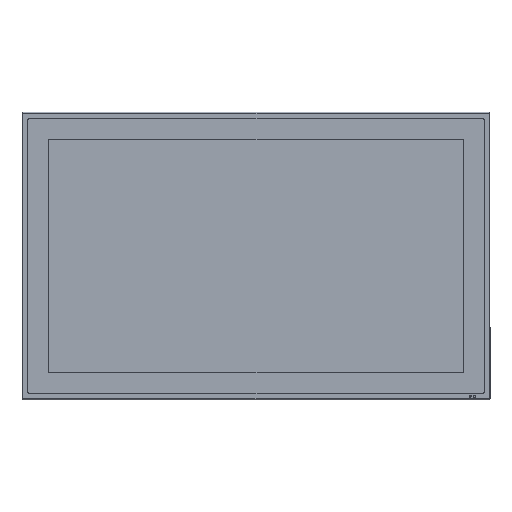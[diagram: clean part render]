
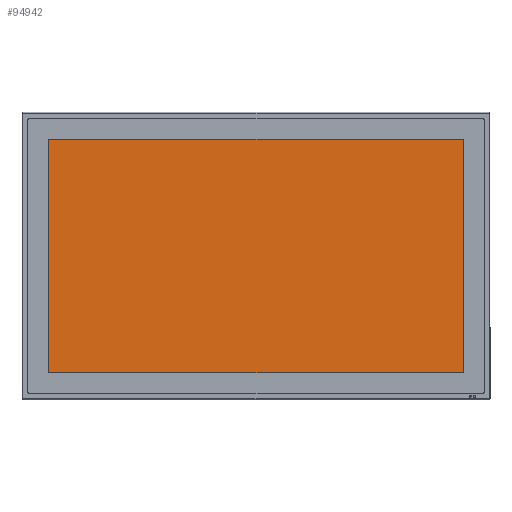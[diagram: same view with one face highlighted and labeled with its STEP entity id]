
A CAD part, top view. The second image highlights one B-rep face of the part: STEP entity #94942.
In plain terms, the highlighted planar face has unit normal (0, 0, 1).
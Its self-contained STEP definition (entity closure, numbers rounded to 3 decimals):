
#5276 = CARTESIAN_POINT ( 'NONE',  ( 238.92, 134.655, 0. ) ) ;
#13021 = ORIENTED_EDGE ( 'NONE', *, *, #271039, .T. ) ;
#15314 = CARTESIAN_POINT ( 'NONE',  ( -238.92, 134.655, 0. ) ) ;
#60710 = DIRECTION ( 'NONE',  ( -1., 0., 0. ) ) ;
#67435 = VERTEX_POINT ( 'NONE', #188109 ) ;
#75960 = AXIS2_PLACEMENT_3D ( 'NONE', #288575, #290649, #215280 ) ;
#90782 = DIRECTION ( 'NONE',  ( 0., -1., 0. ) ) ;
#92067 = FACE_OUTER_BOUND ( 'NONE', #279953, .T. ) ;
#94942 = ADVANCED_FACE ( 'NONE', ( #92067 ), #267283, .T. ) ;
#105229 = CARTESIAN_POINT ( 'NONE',  ( 238.92, -134.655, 0. ) ) ;
#107688 = CARTESIAN_POINT ( 'NONE',  ( -238.92, 134.655, 0. ) ) ;
#115205 = VECTOR ( 'NONE', #306883, 1000. ) ;
#144500 = VECTOR ( 'NONE', #90782, 1000. ) ;
#145620 = VECTOR ( 'NONE', #60710, 1000. ) ;
#146813 = VECTOR ( 'NONE', #199757, 1000. ) ;
#157454 = CARTESIAN_POINT ( 'NONE',  ( -238.92, 134.655, 0. ) ) ;
#158393 = CARTESIAN_POINT ( 'NONE',  ( -238.92, -134.655, 0. ) ) ;
#179811 = LINE ( 'NONE', #158393, #115205 ) ;
#188109 = CARTESIAN_POINT ( 'NONE',  ( -238.92, -134.655, 0. ) ) ;
#188891 = EDGE_CURVE ( 'NONE', #199217, #297732, #210107, .T. ) ;
#199217 = VERTEX_POINT ( 'NONE', #243703 ) ;
#199757 = DIRECTION ( 'NONE',  ( 0., 1., 0. ) ) ;
#210107 = LINE ( 'NONE', #157454, #145620 ) ;
#210916 = ORIENTED_EDGE ( 'NONE', *, *, #261863, .T. ) ;
#215280 = DIRECTION ( 'NONE',  ( 1., 0., 0. ) ) ;
#243703 = CARTESIAN_POINT ( 'NONE',  ( 238.92, 134.655, 0. ) ) ;
#255600 = EDGE_CURVE ( 'NONE', #67435, #289171, #179811, .T. ) ;
#261863 = EDGE_CURVE ( 'NONE', #297732, #67435, #273461, .T. ) ;
#267283 = PLANE ( 'NONE',  #75960 ) ;
#271039 = EDGE_CURVE ( 'NONE', #289171, #199217, #309908, .T. ) ;
#273461 = LINE ( 'NONE', #15314, #144500 ) ;
#276862 = ORIENTED_EDGE ( 'NONE', *, *, #255600, .T. ) ;
#279953 = EDGE_LOOP ( 'NONE', ( #210916, #276862, #13021, #299840 ) ) ;
#288575 = CARTESIAN_POINT ( 'NONE',  ( 0., 0., 0. ) ) ;
#289171 = VERTEX_POINT ( 'NONE', #105229 ) ;
#290649 = DIRECTION ( 'NONE',  ( 0., 0., 1. ) ) ;
#297732 = VERTEX_POINT ( 'NONE', #107688 ) ;
#299840 = ORIENTED_EDGE ( 'NONE', *, *, #188891, .T. ) ;
#306883 = DIRECTION ( 'NONE',  ( 1., 0., 0. ) ) ;
#309908 = LINE ( 'NONE', #5276, #146813 ) ;
